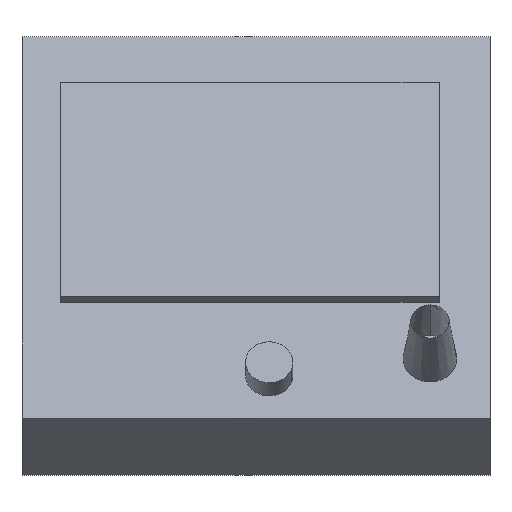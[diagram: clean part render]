
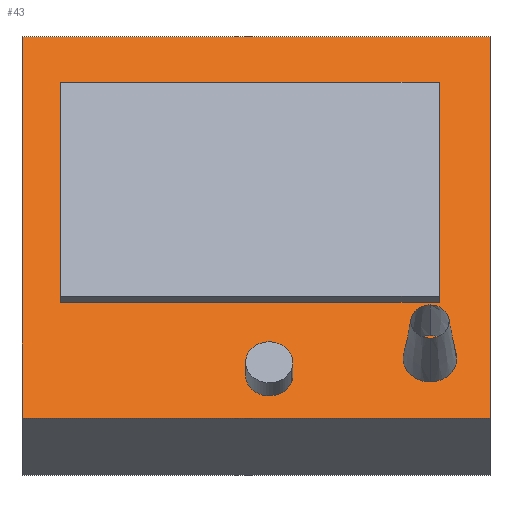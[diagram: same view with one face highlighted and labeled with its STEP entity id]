
A CAD part, front view. The second image highlights one B-rep face of the part: STEP entity #43.
In plain terms, the highlighted planar face has unit normal (0, -0.866, 0.5).
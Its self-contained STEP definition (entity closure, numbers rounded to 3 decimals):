
#43=ADVANCED_FACE('',(#66),#321,.T.);
#66=FACE_OUTER_BOUND('',#89,.T.);
#89=EDGE_LOOP('',(#113,#114,#115,#116));
#113=ORIENTED_EDGE('',*,*,#205,.T.);
#114=ORIENTED_EDGE('',*,*,#206,.T.);
#115=ORIENTED_EDGE('',*,*,#207,.F.);
#116=ORIENTED_EDGE('',*,*,#208,.F.);
#205=EDGE_CURVE('',#289,#290,#253,.T.);
#206=EDGE_CURVE('',#290,#291,#254,.T.);
#207=EDGE_CURVE('',#292,#291,#255,.T.);
#208=EDGE_CURVE('',#289,#292,#256,.T.);
#253=B_SPLINE_CURVE_WITH_KNOTS('',1,(#434,#435),.UNSPECIFIED.,.F.,.F.,(2,
2),(0.,96.498),.UNSPECIFIED.);
#254=B_SPLINE_CURVE_WITH_KNOTS('',1,(#436,#437),.UNSPECIFIED.,.F.,.F.,(2,
2),(0.,90.813),.UNSPECIFIED.);
#255=B_SPLINE_CURVE_WITH_KNOTS('',1,(#438,#439),.UNSPECIFIED.,.F.,.F.,(2,
2),(0.,96.498),.UNSPECIFIED.);
#256=B_SPLINE_CURVE_WITH_KNOTS('',1,(#440,#441),.UNSPECIFIED.,.F.,.F.,(2,
2),(0.,90.813),.UNSPECIFIED.);
#289=VERTEX_POINT('',#418);
#290=VERTEX_POINT('',#419);
#291=VERTEX_POINT('',#420);
#292=VERTEX_POINT('',#421);
#321=PLANE('',#360);
#360=AXIS2_PLACEMENT_3D('',#407,#383,$);
#383=DIRECTION('',(0.,-0.866,0.5));
#407=CARTESIAN_POINT('',(-48.249,-195.045,42.469));
#418=CARTESIAN_POINT('',(-48.249,-195.045,42.469));
#419=CARTESIAN_POINT('',(48.249,-195.045,42.469));
#420=CARTESIAN_POINT('',(48.249,-149.639,121.116));
#421=CARTESIAN_POINT('',(-48.249,-149.639,121.116));
#434=CARTESIAN_POINT('',(-48.249,-195.045,42.469));
#435=CARTESIAN_POINT('',(48.249,-195.045,42.469));
#436=CARTESIAN_POINT('',(48.249,-195.045,42.469));
#437=CARTESIAN_POINT('',(48.249,-149.639,121.116));
#438=CARTESIAN_POINT('',(-48.249,-149.639,121.116));
#439=CARTESIAN_POINT('',(48.249,-149.639,121.116));
#440=CARTESIAN_POINT('',(-48.249,-195.045,42.469));
#441=CARTESIAN_POINT('',(-48.249,-149.639,121.116));
